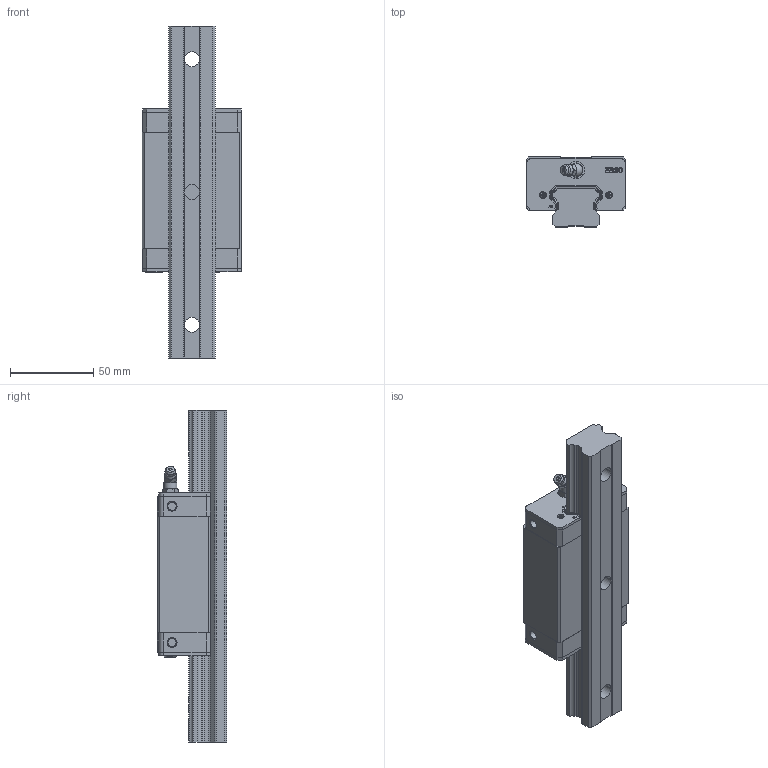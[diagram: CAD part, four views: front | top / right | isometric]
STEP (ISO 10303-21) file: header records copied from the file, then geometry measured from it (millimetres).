
FILE_DESCRIPTION(/* description */ (''),/* implementation_level */ '2;1');
FILE_NAME(/* name */ 'EBH30CA.stp',/* time_stamp */ '2024-09-29T20:41:23+08:00',/* author */ (''),/* organization */ (''),/* preprocessor_version */ 'ST-DEVELOPER v16.7',/* originating_system */ 'SIEMENS PLM Software NX 12.0',/* authorisation */ '');
FILE_SCHEMA (('AUTOMOTIVE_DESIGN { 1 0 10303 214 3 1 1 1 }'));
Products named in the file (3): EBH30CA; EBR30; EBH30CA_stp
Assembly tree (2 placements, depth 2):
  EBH30CA_stp
    EBR30
    EBH30CA
Bounding box: 60 x 42 x 200 mm (x, y, z)
Volume: 260266.2 mm3; surface area: 54314.1 mm2
Topology: 2 solids, 4 shells, 912 faces, 2450 edges, 1598 vertices
Faces by surface type: plane 478, cylinder 208, extrusion 102, cone 94, bspline 20, torus 7, sphere 3
Full cylindrical faces by diameter (mm): 3 x1, 3.7 x1, 4.2 x4, 5 x4, 6 x1, 6.8 x16, 7.8 x1, 8.3 x1, 10.5 x2
Entity records: 50915 total; most frequent: CARTESIAN_POINT 24096, ORIENTED_EDGE 4618, DIRECTION 3847, EDGE_CURVE 2309, VERTEX_POINT 1529, VECTOR 1389, LINE 1287, AXIS2_PLACEMENT_3D 1229
